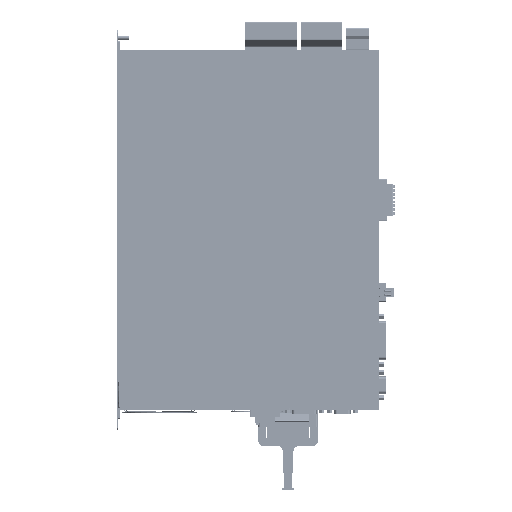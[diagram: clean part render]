
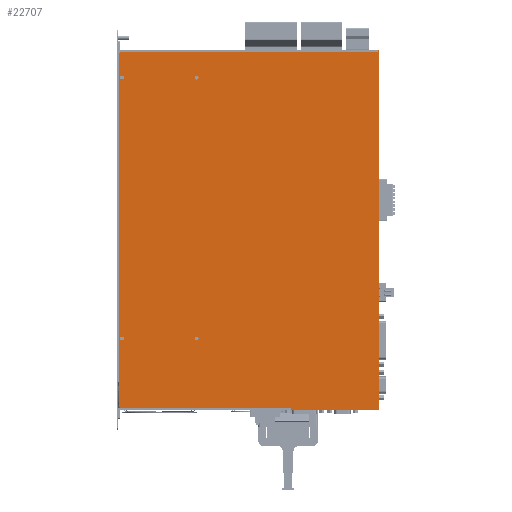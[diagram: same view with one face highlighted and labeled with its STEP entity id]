
A CAD part, left-side view. The second image highlights one B-rep face of the part: STEP entity #22707.
In plain terms, the highlighted planar face has unit normal (-1, 0, 0).
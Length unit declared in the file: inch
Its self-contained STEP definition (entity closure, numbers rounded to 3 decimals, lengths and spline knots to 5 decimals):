
#22707=ADVANCED_FACE('',(#62368,#62369,#62370,#62371,#62372),#62373,.F.);
#62368=FACE_BOUND('',#124198,.T.);
#62369=FACE_BOUND('',#124199,.T.);
#62370=FACE_BOUND('',#124200,.T.);
#62371=FACE_BOUND('',#124201,.T.);
#62372=FACE_OUTER_BOUND('',#124202,.T.);
#62373=PLANE('',#124203);
#124198=EDGE_LOOP('',(#227418,#227419));
#124199=EDGE_LOOP('',(#227420,#227421));
#124200=EDGE_LOOP('',(#227422,#227423));
#124201=EDGE_LOOP('',(#227424,#227425));
#124202=EDGE_LOOP('',(#227426,#227427,#227428,#227429,#227430,#227431,#227432,#227433,#227434,#227435,#227436,#227437,#227438,#227439));
#124203=AXIS2_PLACEMENT_3D('',#227440,#227441,#227442);
#227418=ORIENTED_EDGE('',*,*,#394544,.T.);
#227419=ORIENTED_EDGE('',*,*,#393427,.T.);
#227420=ORIENTED_EDGE('',*,*,#394545,.T.);
#227421=ORIENTED_EDGE('',*,*,#394546,.T.);
#227422=ORIENTED_EDGE('',*,*,#394547,.T.);
#227423=ORIENTED_EDGE('',*,*,#394548,.T.);
#227424=ORIENTED_EDGE('',*,*,#394549,.T.);
#227425=ORIENTED_EDGE('',*,*,#394550,.T.);
#227426=ORIENTED_EDGE('',*,*,#394551,.T.);
#227427=ORIENTED_EDGE('',*,*,#394552,.F.);
#227428=ORIENTED_EDGE('',*,*,#394553,.T.);
#227429=ORIENTED_EDGE('',*,*,#394554,.F.);
#227430=ORIENTED_EDGE('',*,*,#394555,.T.);
#227431=ORIENTED_EDGE('',*,*,#394556,.T.);
#227432=ORIENTED_EDGE('',*,*,#394557,.F.);
#227433=ORIENTED_EDGE('',*,*,#394558,.F.);
#227434=ORIENTED_EDGE('',*,*,#394559,.F.);
#227435=ORIENTED_EDGE('',*,*,#394560,.T.);
#227436=ORIENTED_EDGE('',*,*,#394561,.F.);
#227437=ORIENTED_EDGE('',*,*,#394562,.T.);
#227438=ORIENTED_EDGE('',*,*,#394563,.T.);
#227439=ORIENTED_EDGE('',*,*,#394564,.T.);
#227440=CARTESIAN_POINT('',(-2.34252,-6.95866,-0.77756));
#227441=DIRECTION('',(1.0,0.0,0.0));
#227442=DIRECTION('',(0.0,0.0,-1.0));
#393427=EDGE_CURVE('',#468243,#468247,#468249,.T.);
#394544=EDGE_CURVE('',#468247,#468243,#470235,.T.);
#394545=EDGE_CURVE('',#470236,#470237,#470238,.T.);
#394546=EDGE_CURVE('',#470237,#470236,#470239,.T.);
#394547=EDGE_CURVE('',#470240,#470241,#470242,.T.);
#394548=EDGE_CURVE('',#470241,#470240,#470243,.T.);
#394549=EDGE_CURVE('',#470244,#470245,#470246,.T.);
#394550=EDGE_CURVE('',#470245,#470244,#470247,.T.);
#394551=EDGE_CURVE('',#470248,#470249,#470250,.T.);
#394552=EDGE_CURVE('',#470251,#470249,#470252,.T.);
#394553=EDGE_CURVE('',#470251,#470253,#470254,.F.);
#394554=EDGE_CURVE('',#470255,#470253,#470256,.F.);
#394555=EDGE_CURVE('',#470255,#470257,#470258,.T.);
#394556=EDGE_CURVE('',#470257,#470259,#470260,.F.);
#394557=EDGE_CURVE('',#470261,#470259,#470262,.T.);
#394558=EDGE_CURVE('',#470263,#470261,#470264,.T.);
#394559=EDGE_CURVE('',#470265,#470263,#470266,.T.);
#394560=EDGE_CURVE('',#470265,#470267,#470268,.F.);
#394561=EDGE_CURVE('',#470269,#470267,#470270,.F.);
#394562=EDGE_CURVE('',#470269,#470271,#470272,.T.);
#394563=EDGE_CURVE('',#470271,#470273,#470274,.F.);
#394564=EDGE_CURVE('',#470273,#470248,#470275,.F.);
#468243=VERTEX_POINT('',#582547);
#468247=VERTEX_POINT('',#582552);
#468249=CIRCLE('',#582555,0.0748);
#470235=CIRCLE('',#585673,0.0748);
#470236=VERTEX_POINT('',#585674);
#470237=VERTEX_POINT('',#585675);
#470238=CIRCLE('',#585676,0.0748);
#470239=CIRCLE('',#585677,0.0748);
#470240=VERTEX_POINT('',#585678);
#470241=VERTEX_POINT('',#585679);
#470242=CIRCLE('',#585680,0.0748);
#470243=CIRCLE('',#585681,0.0748);
#470244=VERTEX_POINT('',#585682);
#470245=VERTEX_POINT('',#585683);
#470246=CIRCLE('',#585684,0.0748);
#470247=CIRCLE('',#585685,0.0748);
#470248=VERTEX_POINT('',#585686);
#470249=VERTEX_POINT('',#585687);
#470250=LINE('',#585688,#585689);
#470251=VERTEX_POINT('',#585690);
#470252=LINE('',#585691,#585692);
#470253=VERTEX_POINT('',#585693);
#470254=LINE('',#585694,#585695);
#470255=VERTEX_POINT('',#585696);
#470256=LINE('',#585697,#585698);
#470257=VERTEX_POINT('',#585699);
#470258=LINE('',#585700,#585701);
#470259=VERTEX_POINT('',#585702);
#470260=LINE('',#585703,#585704);
#470261=VERTEX_POINT('',#585705);
#470262=LINE('',#585706,#585707);
#470263=VERTEX_POINT('',#585708);
#470264=LINE('',#585709,#585710);
#470265=VERTEX_POINT('',#585711);
#470266=LINE('',#585712,#585713);
#470267=VERTEX_POINT('',#585714);
#470268=LINE('',#585715,#585716);
#470269=VERTEX_POINT('',#585717);
#470270=LINE('',#585718,#585719);
#470271=VERTEX_POINT('',#585720);
#470272=LINE('',#585721,#585722);
#470273=VERTEX_POINT('',#585723);
#470274=LINE('',#585724,#585725);
#470275=LINE('',#585726,#585727);
#582547=CARTESIAN_POINT('',(-2.34252,0.77165,11.92913));
#582552=CARTESIAN_POINT('',(-2.34252,0.92126,11.92913));
#582555=AXIS2_PLACEMENT_3D('',#757999,#758000,#758001);
#585673=AXIS2_PLACEMENT_3D('',#759180,#759181,#759182);
#585674=CARTESIAN_POINT('',(-2.34252,0.92126,1.88976));
#585675=CARTESIAN_POINT('',(-2.34252,0.77165,1.88976));
#585676=AXIS2_PLACEMENT_3D('',#759183,#759184,#759185);
#585677=AXIS2_PLACEMENT_3D('',#759186,#759187,#759188);
#585678=CARTESIAN_POINT('',(-2.34252,-1.95276,11.92913));
#585679=CARTESIAN_POINT('',(-2.34252,-2.10236,11.92913));
#585680=AXIS2_PLACEMENT_3D('',#759189,#759190,#759191);
#585681=AXIS2_PLACEMENT_3D('',#759192,#759193,#759194);
#585682=CARTESIAN_POINT('',(-2.34252,-1.95276,1.88976));
#585683=CARTESIAN_POINT('',(-2.34252,-2.10236,1.88976));
#585684=AXIS2_PLACEMENT_3D('',#759195,#759196,#759197);
#585685=AXIS2_PLACEMENT_3D('',#759198,#759199,#759200);
#585686=CARTESIAN_POINT('',(-2.34252,-9.01575,-0.76772));
#585687=CARTESIAN_POINT('',(-2.34252,-9.01575,-0.84646));
#585688=CARTESIAN_POINT('',(-2.34252,-9.01575,-0.70374));
#585689=VECTOR('',#759201,0.03937);
#585690=CARTESIAN_POINT('',(-2.34252,-9.05512,-0.84646));
#585691=CARTESIAN_POINT('',(-2.34252,-5.47736,-0.84646));
#585692=VECTOR('',#759202,0.03937);
#585693=CARTESIAN_POINT('',(-2.34252,-9.05512,12.97244));
#585694=CARTESIAN_POINT('',(-2.34252,-9.05512,-0.59547));
#585695=VECTOR('',#759203,0.03937);
#585696=CARTESIAN_POINT('',(-2.34252,-9.01575,12.97244));
#585697=CARTESIAN_POINT('',(-2.34252,-5.84154,12.97244));
#585698=VECTOR('',#759204,0.03937);
#585699=CARTESIAN_POINT('',(-2.34252,-9.01575,12.8937));
#585700=CARTESIAN_POINT('',(-2.34252,-9.01575,-0.70374));
#585701=VECTOR('',#759205,0.03937);
#585702=CARTESIAN_POINT('',(-2.34252,0.9252,12.8937));
#585703=CARTESIAN_POINT('',(-2.34252,-4.75394,12.8937));
#585704=VECTOR('',#759206,0.03937);
#585705=CARTESIAN_POINT('',(-2.34252,0.96457,12.85433));
#585706=CARTESIAN_POINT('',(-2.34252,2.38189,11.43701));
#585707=VECTOR('',#759207,0.03937);
#585708=CARTESIAN_POINT('',(-2.34252,0.96457,-0.72835));
#585709=CARTESIAN_POINT('',(-2.34252,0.96457,3.70571));
#585710=VECTOR('',#759208,0.03937);
#585711=CARTESIAN_POINT('',(-2.34252,0.9252,-0.76772));
#585712=CARTESIAN_POINT('',(-2.34252,-1.03839,-2.7313));
#585713=VECTOR('',#759209,0.03937);
#585714=CARTESIAN_POINT('',(-2.34252,-5.64961,-0.76772));
#585715=CARTESIAN_POINT('',(-2.34252,-4.75394,-0.76772));
#585716=VECTOR('',#759210,0.03937);
#585717=CARTESIAN_POINT('',(-2.34252,-5.64961,-0.84646));
#585718=CARTESIAN_POINT('',(-2.34252,-5.64961,-0.77756));
#585719=VECTOR('',#759211,0.03937);
#585720=CARTESIAN_POINT('',(-2.34252,-8.99606,-0.84646));
#585721=CARTESIAN_POINT('',(-2.34252,-6.95866,-0.84646));
#585722=VECTOR('',#759212,0.03937);
#585723=CARTESIAN_POINT('',(-2.34252,-8.99606,-0.76772));
#585724=CARTESIAN_POINT('',(-2.34252,-8.99606,-0.77756));
#585725=VECTOR('',#759213,0.03937);
#585726=CARTESIAN_POINT('',(-2.34252,-4.75394,-0.76772));
#585727=VECTOR('',#759214,0.03937);
#757999=CARTESIAN_POINT('',(-2.34252,0.84646,11.92913));
#758000=DIRECTION('',(1.0,0.0,0.0));
#758001=DIRECTION('',(0.0,-1.0,0.0));
#759180=CARTESIAN_POINT('',(-2.34252,0.84646,11.92913));
#759181=DIRECTION('',(1.0,0.0,0.0));
#759182=DIRECTION('',(0.0,-1.0,0.0));
#759183=CARTESIAN_POINT('',(-2.34252,0.84646,1.88976));
#759184=DIRECTION('',(1.0,0.0,0.0));
#759185=DIRECTION('',(0.0,-1.0,0.0));
#759186=CARTESIAN_POINT('',(-2.34252,0.84646,1.88976));
#759187=DIRECTION('',(1.0,0.0,0.0));
#759188=DIRECTION('',(0.0,-1.0,0.0));
#759189=CARTESIAN_POINT('',(-2.34252,-2.02756,11.92913));
#759190=DIRECTION('',(1.0,0.0,0.0));
#759191=DIRECTION('',(0.0,-1.0,0.0));
#759192=CARTESIAN_POINT('',(-2.34252,-2.02756,11.92913));
#759193=DIRECTION('',(1.0,0.0,0.0));
#759194=DIRECTION('',(0.0,-1.0,0.0));
#759195=CARTESIAN_POINT('',(-2.34252,-2.02756,1.88976));
#759196=DIRECTION('',(1.0,0.0,0.0));
#759197=DIRECTION('',(0.0,-1.0,0.0));
#759198=CARTESIAN_POINT('',(-2.34252,-2.02756,1.88976));
#759199=DIRECTION('',(1.0,0.0,0.0));
#759200=DIRECTION('',(0.0,-1.0,0.0));
#759201=DIRECTION('',(0.0,0.,-1.0));
#759202=DIRECTION('',(0.0,1.0,0.0));
#759203=DIRECTION('',(0.0,0.,-1.0));
#759204=DIRECTION('',(0.0,1.0,0.0));
#759205=DIRECTION('',(0.0,0.,-1.0));
#759206=DIRECTION('',(0.0,-1.0,0.0));
#759207=DIRECTION('',(0.0,-0.707,0.707));
#759208=DIRECTION('',(0.0,0.0,1.0));
#759209=DIRECTION('',(0.0,0.707,0.707));
#759210=DIRECTION('',(0.0,1.0,0.0));
#759211=DIRECTION('',(0.0,0.0,-1.0));
#759212=DIRECTION('',(0.0,-1.0,0.0));
#759213=DIRECTION('',(0.0,0.0,-1.0));
#759214=DIRECTION('',(0.0,1.0,0.0));
